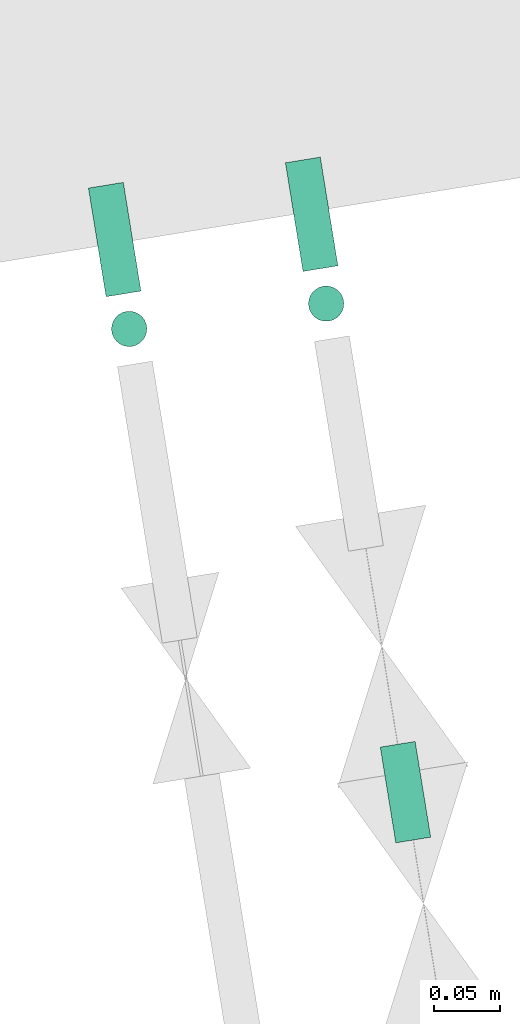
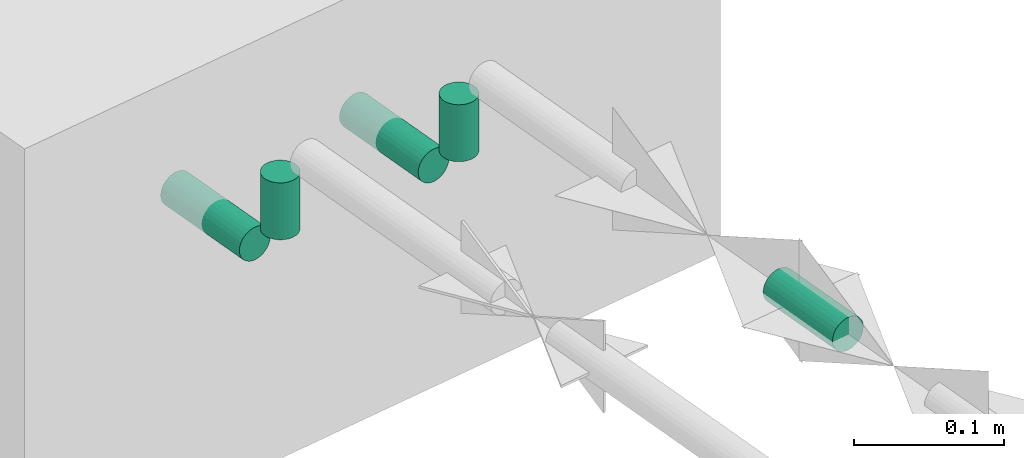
# One storey, part 6 of 8: 5 flow segments.
"""IFC2X3 building model written with IfcOpenShell, lengths in millimetres."""

from ifc_helpers import new_model, entity, si_unit, converted_unit, derived_unit, direction, frame, frame_2d, origin, origin_with_axes, origin_2d_with_axis, place, context, subcontext, project, spatial, circle, extrude, type_object, element, save


model = new_model("IFC2X3")

# Units and contexts
model_context = context("Model", 3, precision=0.01, world=origin(), true_north=direction((6.12323399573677e-17, 1.0)))
plan_context = context("Plan", 3, precision=1e-05, world=origin_with_axes())
body_context = subcontext(model_context, "Body", "Model", "MODEL_VIEW")
ifc_project = project(units=[converted_unit("PLANEANGLEUNIT", "DEGREE", entity("IfcPositiveLengthMeasure", 0.0174532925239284), si_unit("PLANEANGLEUNIT", "RADIAN"), dimensions=[0, 0, 0, 0, 0, 0, 0]), si_unit("AREAUNIT", "SQUARE_METRE"), si_unit("LENGTHUNIT", "METRE", prefix="MILLI"), si_unit("MASSUNIT", "GRAM", prefix="KILO"), si_unit("POWERUNIT", "WATT"), si_unit("PRESSUREUNIT", "PASCAL", prefix="KILO"), si_unit("FORCEUNIT", "NEWTON", prefix="KILO"), si_unit("ELECTRICVOLTAGEUNIT", "VOLT"), si_unit("ELECTRICCURRENTUNIT", "AMPERE"), si_unit("THERMODYNAMICTEMPERATUREUNIT", "DEGREE_CELSIUS"), si_unit("TIMEUNIT", "SECOND"), si_unit("VOLUMEUNIT", "CUBIC_METRE"), derived_unit("LINEARVELOCITYUNIT", [(si_unit("LENGTHUNIT", "METRE"), 1), (si_unit("TIMEUNIT", "SECOND"), -1)]), derived_unit("VOLUMETRICFLOWRATEUNIT", [(si_unit("VOLUMEUNIT", "CUBIC_METRE"), 1), (si_unit("TIMEUNIT", "SECOND"), -1)]), derived_unit("THERMALTRANSMITTANCEUNIT", [(si_unit("POWERUNIT", "WATT"), 1), (si_unit("THERMODYNAMICTEMPERATUREUNIT", "KELVIN"), -1), (si_unit("AREAUNIT", "SQUARE_METRE"), -1)]), derived_unit("SOUNDPRESSUREUNIT", [(si_unit("PRESSUREUNIT", "PASCAL"), 1)])], contexts=[model_context, plan_context])

# Site, building, storey
site_placement = place(None, frame((-0.00071070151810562, 0.00438415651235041, 0.0), z_axis=(0.0, 0.0, 1.0), x_axis=(-0.160236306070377, 0.987078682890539, 0.0)))
site = spatial("IfcSite", under=ifc_project, at=site_placement, Name="Default", CompositionType="ELEMENT")
building_placement = place(site_placement, origin_with_axes())
building = spatial("IfcBuilding", under=site, at=building_placement, CompositionType="ELEMENT")
storey_placement = place(building_placement, frame((0.0, 0.0, 50999.9999999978), z_axis=(0.0, 0.0, 1.0), x_axis=(1.0, 0.0, 0.0)))
storey = spatial("IfcBuildingStorey", under=building, at=storey_placement, Name="Nivå D", CompositionType="ELEMENT", Elevation=50999.9999999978)

# Flow segments
pipe_segment_type = type_object("IfcPipeSegmentType", Name="Pipe Types:Stålrør syrefast AISI 316", PredefinedType="NOTDEFINED")
flow_segment_1_placement = place(storey_placement, origin_with_axes())
element("IfcFlowSegment", 1, at=flow_segment_1_placement, inside=storey, type_object=pipe_segment_type, Name="Pipe Types:Stålrør syrefast AISI 316", ObjectType="Pipe Types:Stålrør syrefast AISI 316", context=body_context, shape_type="SweptSolid", body=[
    extrude(circle(Radius=13.3500004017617, at=frame_2d((6.93034962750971e-11, 0.0), x_axis=(1.0, 0.0))), frame((774902.499644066, -601232.142355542, 2900.0), z_axis=(1.0, 0.0, 0.0), x_axis=(0.0, -1.0, 0.0)), (0.0, 0.0, 1.0), 83.1999999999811),
])
flow_segment_2_placement = place(storey_placement, origin_with_axes())
element("IfcFlowSegment", 2, at=flow_segment_2_placement, inside=storey, type_object=pipe_segment_type, Name="Pipe Types:Stålrør syrefast AISI 316", ObjectType="Pipe Types:Stålrør syrefast AISI 316", context=body_context, shape_type="SweptSolid", body=[
    extrude(circle(Radius=13.3500004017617, at=origin_2d_with_axis()), frame((774875.699644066, -601232.142355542, 2926.8)), (0.0, 0.0, 1.0), 46.3999999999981),
])
flow_segment_3_placement = place(storey_placement, origin_with_axes())
element("IfcFlowSegment", 3, at=flow_segment_3_placement, inside=storey, type_object=pipe_segment_type, Name="Pipe Types:Stålrør syrefast AISI 316", ObjectType="Pipe Types:Stålrør syrefast AISI 316", context=body_context, shape_type="SweptSolid", body=[
    extrude(circle(Radius=13.3500004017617, at=origin_2d_with_axis()), frame((774897.499644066, -601382.142355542, 2900.0), z_axis=(1.0, 0.0, 0.0), x_axis=(0.0, -1.0, 0.0)), (0.0, 0.0, 1.0), 83.1999999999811),
])
flow_segment_4_placement = place(storey_placement, origin_with_axes())
element("IfcFlowSegment", 4, at=flow_segment_4_placement, inside=storey, type_object=pipe_segment_type, Name="Pipe Types:Stålrør syrefast AISI 316", ObjectType="Pipe Types:Stålrør syrefast AISI 316", context=body_context, shape_type="SweptSolid", body=[
    extrude(circle(Radius=13.3500004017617, at=origin_2d_with_axis()), frame((774870.699644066, -601382.142355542, 2926.8)), (0.0, 0.0, 1.0), 46.3999999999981),
])
flow_segment_5_placement = place(storey_placement, origin_with_axes())
element("IfcFlowSegment", 5, at=flow_segment_5_placement, inside=storey, type_object=pipe_segment_type, Name="Pipe Types:Stålrør syrefast AISI 316", ObjectType="Pipe Types:Stålrør syrefast AISI 316", context=body_context, shape_type="SweptSolid", body=[
    extrude(circle(Radius=13.3500004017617, at=origin_2d_with_axis()), frame((774460.006063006, -601382.142355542, 3000.0), z_axis=(1.0, 0.0, 0.0), x_axis=(0.0, -1.0, 0.0)), (0.0, 0.0, 1.0), 73.2864883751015),
])

save(model, "model.ifc")
